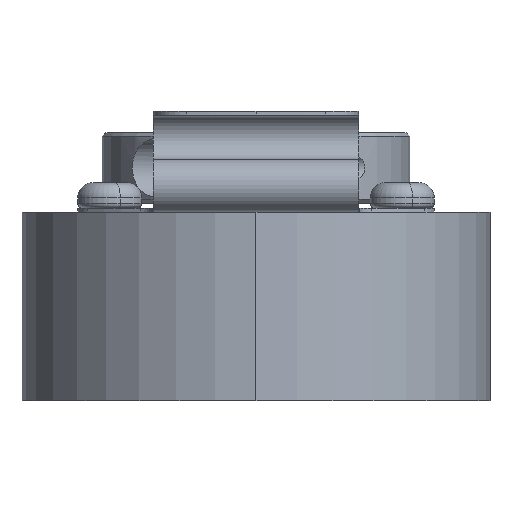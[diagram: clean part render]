
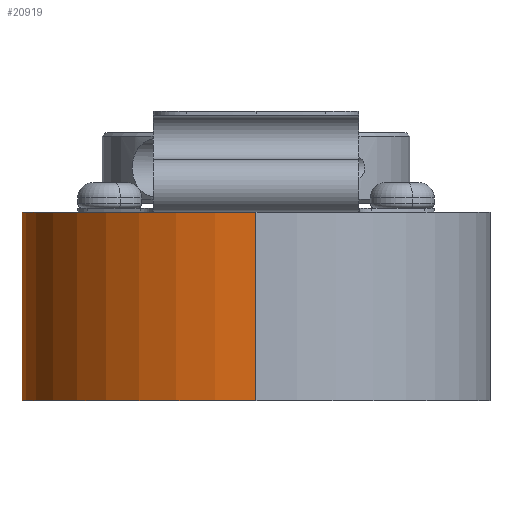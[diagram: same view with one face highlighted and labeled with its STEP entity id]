
A CAD part, left-side view. The second image highlights one B-rep face of the part: STEP entity #20919.
In plain terms, the highlighted cylindrical face has radius 18.25 mm (diameter 36.5 mm), a partial arc.
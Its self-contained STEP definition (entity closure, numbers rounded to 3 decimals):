
#373 = CARTESIAN_POINT ( 'NONE',  ( 18.25, 0., 984. ) ) ;
#1335 = FACE_OUTER_BOUND ( 'NONE', #13092, .T. ) ;
#2964 = VERTEX_POINT ( 'NONE', #26709 ) ;
#3625 = VERTEX_POINT ( 'NONE', #19488 ) ;
#3917 = CARTESIAN_POINT ( 'NONE',  ( 0., 0., 984. ) ) ;
#4038 = ORIENTED_EDGE ( 'NONE', *, *, #28057, .T. ) ;
#4307 = DIRECTION ( 'NONE',  ( 0., 0., -1. ) ) ;
#4571 = CIRCLE ( 'NONE', #27362, 18.25 ) ;
#4612 = DIRECTION ( 'NONE',  ( -1., 0., 0. ) ) ;
#4678 = DIRECTION ( 'NONE',  ( 1., 0., 0. ) ) ;
#5884 = EDGE_CURVE ( 'NONE', #3625, #2964, #21887, .T. ) ;
#6948 = CARTESIAN_POINT ( 'NONE',  ( 0., 0., -14.7 ) ) ;
#8021 = CIRCLE ( 'NONE', #27323, 18.25 ) ;
#8339 = VERTEX_POINT ( 'NONE', #23218 ) ;
#10379 = VECTOR ( 'NONE', #16957, 1000. ) ;
#12976 = ORIENTED_EDGE ( 'NONE', *, *, #27329, .T. ) ;
#13092 = EDGE_LOOP ( 'NONE', ( #18256, #12976, #4038, #27159 ) ) ;
#13447 = DIRECTION ( 'NONE',  ( 1., 0., 0. ) ) ;
#16957 = DIRECTION ( 'NONE',  ( 0., 0., 1. ) ) ;
#18256 = ORIENTED_EDGE ( 'NONE', *, *, #22165, .T. ) ;
#19215 = VECTOR ( 'NONE', #26026, 1000. ) ;
#19488 = CARTESIAN_POINT ( 'NONE',  ( 18.25, 0., -14.7 ) ) ;
#19731 = CARTESIAN_POINT ( 'NONE',  ( -18.25, 0., 0. ) ) ;
#19755 = AXIS2_PLACEMENT_3D ( 'NONE', #3917, #20501, #13447 ) ;
#20501 = DIRECTION ( 'NONE',  ( 0., 0., 1. ) ) ;
#20919 = ADVANCED_FACE ( 'NONE', ( #1335 ), #22863, .T. ) ;
#21152 = DIRECTION ( 'NONE',  ( 0., 0., 1. ) ) ;
#21248 = CARTESIAN_POINT ( 'NONE',  ( -18.25, 0., 984. ) ) ;
#21250 = VERTEX_POINT ( 'NONE', #19731 ) ;
#21841 = LINE ( 'NONE', #21248, #19215 ) ;
#21887 = LINE ( 'NONE', #373, #10379 ) ;
#22165 = EDGE_CURVE ( 'NONE', #3625, #8339, #4571, .T. ) ;
#22863 = CYLINDRICAL_SURFACE ( 'NONE', #19755, 18.25 ) ;
#23218 = CARTESIAN_POINT ( 'NONE',  ( -18.25, 0., -14.7 ) ) ;
#26026 = DIRECTION ( 'NONE',  ( 0., 0., 1. ) ) ;
#26709 = CARTESIAN_POINT ( 'NONE',  ( 18.25, 0., 0. ) ) ;
#27159 = ORIENTED_EDGE ( 'NONE', *, *, #5884, .F. ) ;
#27323 = AXIS2_PLACEMENT_3D ( 'NONE', #30607, #4307, #4612 ) ;
#27329 = EDGE_CURVE ( 'NONE', #8339, #21250, #21841, .T. ) ;
#27362 = AXIS2_PLACEMENT_3D ( 'NONE', #6948, #21152, #4678 ) ;
#28057 = EDGE_CURVE ( 'NONE', #21250, #2964, #8021, .T. ) ;
#30607 = CARTESIAN_POINT ( 'NONE',  ( 0., 0., 0. ) ) ;
